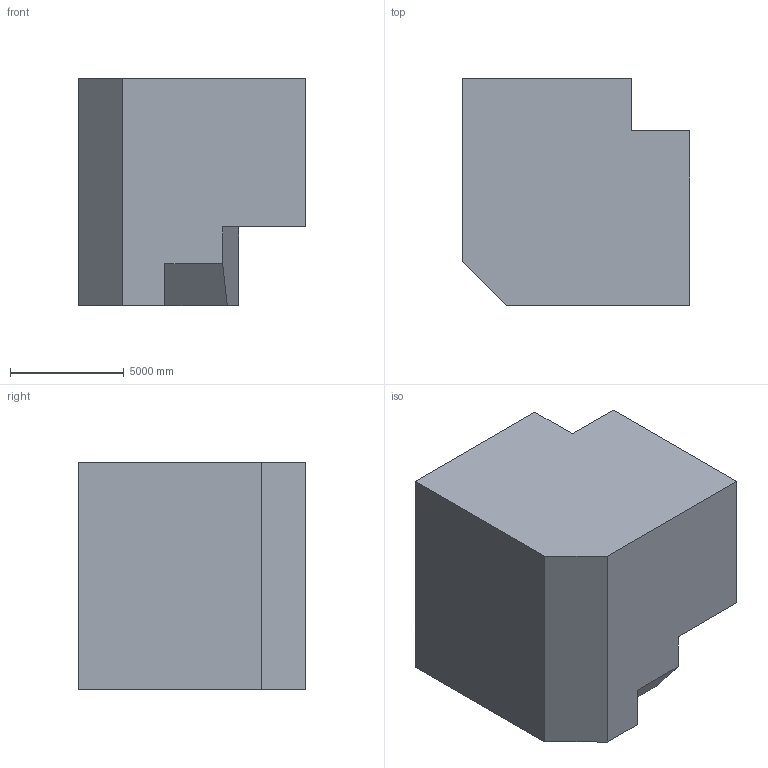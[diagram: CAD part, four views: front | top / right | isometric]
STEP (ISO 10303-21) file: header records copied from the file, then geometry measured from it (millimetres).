
FILE_DESCRIPTION (( 'STEP AP203' ), '1' );
FILE_NAME ('84.STEP', '2022-08-31T11:28:14', ( 'user' ), ( '' ), 'SwSTEP 2.0', 'SolidWorks 2021', '' );
FILE_SCHEMA (( 'CONFIG_CONTROL_DESIGN' ));
Length unit declared in the file: centimetre
Products named in the file (1): 84
Bounding box: 10000 x 10000 x 10000 mm (x, y, z)
Volume: 787315977881.6 mm3; surface area: 614591999.6 mm2
Topology: 1 solids, 1 shells, 22 faces, 53 edges, 35 vertices
Faces by surface type: plane 18, cylinder 4
Entity records: 714 total; most frequent: CARTESIAN_POINT 111, DIRECTION 107, ORIENTED_EDGE 106, EDGE_CURVE 53, LINE 45, VECTOR 45, VERTEX_POINT 35, AXIS2_PLACEMENT_3D 31
